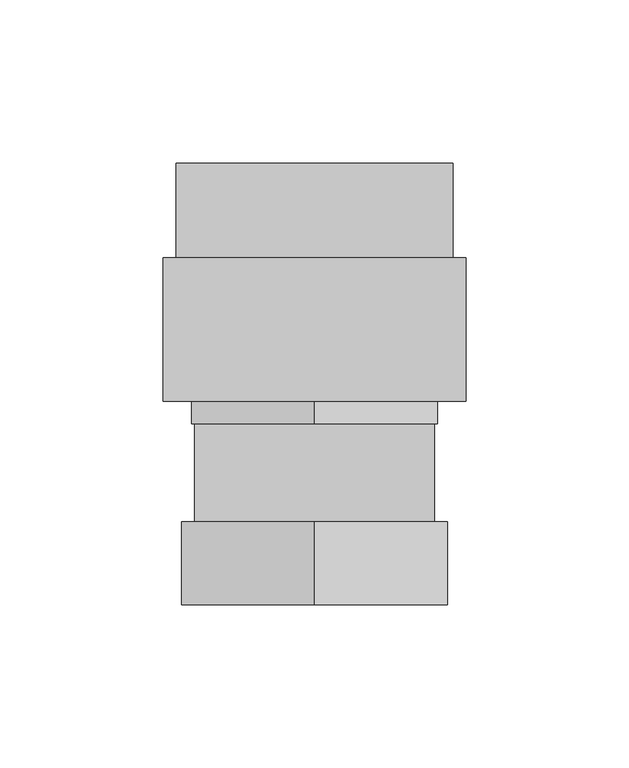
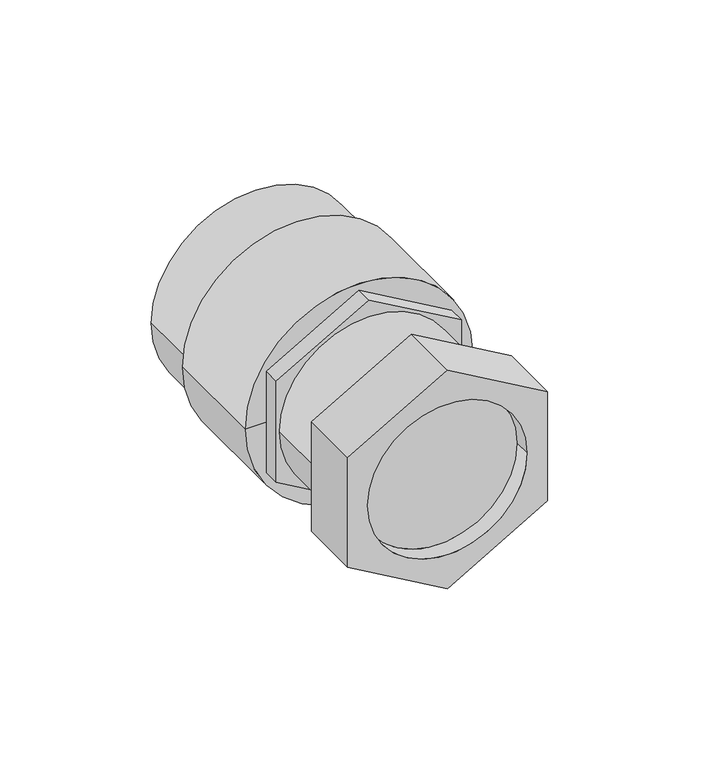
"""IFC4 building model written with IfcOpenShell, lengths in millimetres: pipe fitting geometry, NIRON RED termofusion roscado racor loco : Estándar."""

from ifc_helpers import new_model, si_unit, point, frame, origin, origin_2d, place, context, project, spatial, polyline, circle_curve, trimmed, segment, composite_curve, outline, extrude, source, transform, mapped, element, save
from ifc_brep_helpers import plane_surface, cylinder_surface, revolved_surface, advanced_brep


def pipe_fitting_96f5b82a(model_context):
    return source(origin(), model_context, "Body", "SolidModel", [
        advanced_brep(
        [(40.75, 9.0, -23.5270235), (40.75, 9.0, 23.5270235), (0.0, 9.0, 47.0540469), (-40.75, 9.0, 23.5270235), (-40.75, 9.0, -23.5270235), (0.0, 9.0, -47.0540469), (32.5, 9.0, 0.0), (-32.5, 9.0, 0.0), (40.75, 34.5, -23.5270235), (0.0, 34.5, -47.0540469), (-40.75, 34.5, -23.5270235), (-40.75, 34.5, 23.5270235), (0.0, 34.5, 47.0540469), (40.75, 34.5, 23.5270235), (-32.5, 16.0570795, 0.0), (32.5, 16.0570795, 0.0)],
        [
            (0, 1),
            (1, 2),
            (2, 3),
            (3, 4),
            (4, 5),
            (5, 0),
            (6, 7, circle_curve(frame((0.0, 9.0, 0.0), z_axis=(0.0, 1.0, 0.0), x_axis=(1.0, 0.0, 0.0)), 32.5)),
            (7, 6, circle_curve(frame((0.0, 9.0, 0.0), z_axis=(0.0, 1.0, 0.0), x_axis=(1.0, 0.0, 0.0)), 32.5)),
            (8, 9),
            (9, 10),
            (10, 11),
            (11, 12),
            (12, 13),
            (13, 8),
            (0, 8),
            (13, 1),
            (12, 2),
            (11, 3),
            (10, 4),
            (9, 5),
            (14, 15, circle_curve(frame((0.0, 16.0570795, 0.0), z_axis=(0.0, -1.0, 0.0), x_axis=(1.0, 0.0, 0.0)), 32.5)),
            (15, 14, circle_curve(frame((0.0, 16.0570795, 0.0), z_axis=(0.0, -1.0, 0.0), x_axis=(1.0, 0.0, 0.0)), 32.5)),
            (14, 7),
            (6, 15),
        ],
        [
            plane_surface(frame((0.0, 9.0, 0.0), z_axis=(0.0, -1.0, 0.0), x_axis=(0.0, 0.0, 1.0))),
            plane_surface(frame((0.0, 34.5, 0.0), z_axis=(0.0, 1.0, 0.0), x_axis=(0.0, 0.0, 1.0))),
            plane_surface(frame((40.75, 9.0, -23.5270235), z_axis=(1.0, 0.0, 0.0), x_axis=(0.0, 1.0, 0.0))),
            plane_surface(frame((40.75, 9.0, 23.5270235), z_axis=(0.49999999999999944, 0.0, 0.866025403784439), x_axis=(0.0, 1.0, 0.0))),
            plane_surface(frame((0.0, 9.0, 47.0540469), z_axis=(-0.49999999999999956, 0.0, 0.8660254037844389), x_axis=(0.0, 1.0, 0.0))),
            plane_surface(frame((-40.75, 9.0, 23.5270235), z_axis=(-1.0, 0.0, 0.0), x_axis=(0.0, 1.0, 0.0))),
            plane_surface(frame((-40.75, 9.0, -23.5270235), z_axis=(-0.4999999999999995, 0.0, -0.866025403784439), x_axis=(0.0, 1.0, 0.0))),
            plane_surface(frame((0.0, 9.0, -47.0540469), z_axis=(0.49999999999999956, 0.0, -0.8660254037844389), x_axis=(0.0, 1.0, 0.0))),
            plane_surface(frame((32.5, 16.0570795, 0.0), z_axis=(0.0, -1.0, 0.0), x_axis=(0.0, 0.0, -1.0))),
            revolved_surface(polyline([(32.5, 9.0, 0.0), (32.5, 16.0570795, 0.0)]), (0.0, 16.0570795, 0.0), (0.0, -1.0, 0.0)),
        ],
        [
            (0, [[1, 2, 3, 4, 5, 6], [7, 8]]),
            (1, [[9, 10, 11, 12, 13, 14]]),
            (2, [[-1, 15, -14, 16]]),
            (3, [[-2, -16, -13, 17]]),
            (4, [[-3, -17, -12, 18]]),
            (5, [[-4, -18, -11, 19]]),
            (6, [[-5, -19, -10, 20]]),
            (7, [[-6, -20, -9, -15]]),
            (8, [[21, 22]]),
            (9, [[-21, 23, -7, 24]]),
            (9, [[-22, -24, -8, -23]]),
        ],
    ),
        extrude(outline(polyline([(-21.7949727, 37.75), (21.7949727, 37.75), (43.5899453, 0.0), (21.7949727, -37.75), (-21.7949727, -37.75), (-43.5899453, 0.0), (-21.7949727, 37.75)])), frame((0.0, 64.5, 0.0), z_axis=(0.0, 1.0, 0.0), x_axis=(0.0, 0.0, 1.0)), (0.0, 0.0, 1.0), 7.0),
        extrude(outline(composite_curve([segment(trimmed(circle_curve(origin_2d(), 36.75), [point((0.0, -36.75))], [point((0.0, 36.75))], False, "CARTESIAN"), True, "CONTINUOUS"), segment(trimmed(circle_curve(origin_2d(), 36.75), [point((0.0, 36.75))], [point((0.0, -36.75))], False, "CARTESIAN"), True, "CONTINUOUS")], self_intersect=False)), frame((0.0, 34.5, 0.0), z_axis=(0.0, 1.0, 0.0), x_axis=(0.0, 0.0, 1.0)), (0.0, 0.0, 1.0), 30.0),
        advanced_brep(
        [(42.5, 144.5, 0.0), (-42.5, 144.5, 0.0), (0.0, 144.5, 0.0), (46.5, 71.5, 0.0), (-46.5, 71.5, 0.0), (-46.5, 115.5, 0.0), (46.5, 115.5, 0.0), (0.0, 71.5, 0.0), (42.5, 115.5, 0.0), (-42.5, 115.5, 0.0)],
        [
            (0, 1, circle_curve(frame((0.0, 144.5, 0.0), z_axis=(0.0, 1.0, 0.0), x_axis=(-1.0, 0.0, 0.0)), 42.5)),
            (1, 2),
            (2, 0),
            (1, 0, circle_curve(frame((0.0, 144.5, 0.0), z_axis=(0.0, 1.0, 0.0), x_axis=(-1.0, 0.0, 0.0)), 42.5)),
            (3, 4, circle_curve(frame((0.0, 71.5, 0.0), z_axis=(0.0, 1.0, 0.0), x_axis=(-1.0, 0.0, 0.0)), 46.5)),
            (4, 5),
            (5, 6, circle_curve(frame((0.0, 115.5, 0.0), z_axis=(0.0, -1.0, 0.0), x_axis=(-1.0, 0.0, 0.0)), 46.5)),
            (6, 3),
            (4, 3, circle_curve(frame((0.0, 71.5, 0.0), z_axis=(0.0, 1.0, 0.0), x_axis=(-1.0, 0.0, 0.0)), 46.5)),
            (6, 5, circle_curve(frame((0.0, 115.5, 0.0), z_axis=(0.0, -1.0, 0.0), x_axis=(-1.0, 0.0, 0.0)), 46.5)),
            (7, 4),
            (3, 7),
            (8, 9, circle_curve(frame((0.0, 115.5, 0.0), z_axis=(0.0, 1.0, 0.0), x_axis=(-1.0, 0.0, 0.0)), 42.5)),
            (9, 1),
            (0, 8),
            (9, 8, circle_curve(frame((0.0, 115.5, 0.0), z_axis=(0.0, 1.0, 0.0), x_axis=(-1.0, 0.0, 0.0)), 42.5)),
            (5, 9),
            (8, 6),
        ],
        [
            plane_surface(frame((0.0, 144.5, 0.0), z_axis=(0.0, 1.0, 0.0), x_axis=(-1.0, 0.0, 0.0))),
            cylinder_surface(frame((0.0, 154.5, 0.0), z_axis=(0.0, -1.0, 0.0), x_axis=(-1.0, 0.0, 0.0)), 46.5),
            plane_surface(frame((0.0, 71.5, 0.0), z_axis=(0.0, -1.0, 0.0), x_axis=(-1.0, 0.0, 0.0))),
            cylinder_surface(frame((0.0, 154.5, 0.0), z_axis=(0.0, -1.0, 0.0), x_axis=(-1.0, 0.0, 0.0)), 42.5),
            plane_surface(frame((0.0, 115.5, 0.0), z_axis=(0.0, 1.0, 0.0), x_axis=(-1.0, 0.0, 0.0))),
        ],
        [
            (0, [[1, 2, 3]]),
            (0, [[4, -3, -2]]),
            (1, [[5, 6, 7, 8]]),
            (1, [[9, -8, 10, -6]]),
            (2, [[11, -5, 12]]),
            (2, [[-12, -9, -11]]),
            (3, [[13, 14, -1, 15]]),
            (3, [[16, -15, -4, -14]]),
            (4, [[-7, 17, -13, 18]]),
            (4, [[-10, -18, -16, -17]]),
        ],
    ),
    ])


if __name__ == "__main__":
    model = new_model("IFC4")
    model_context = context("Model", 3, world=origin())
    ifc_project = project(units=[si_unit("LENGTHUNIT", "METRE", prefix="MILLI")], contexts=[model_context])
    site = spatial("IfcSite", under=ifc_project)
    building = spatial("IfcBuilding", under=site)
    placement = place(None, origin())
    pipe_fitting_shape = pipe_fitting_96f5b82a(model_context)
    element("IfcPipeFitting", 1, ObjectType="NIRON RED termofusion roscado racor loco : Estándar", at=placement, inside=building, context=model_context, shape_type="MappedRepresentation", body=[
        mapped(pipe_fitting_shape, transform((0.0, 0.0, 0.0), x_axis=(1.0, 0.0, 0.0), y_axis=(0.0, 1.0, 0.0), z_axis=(0.0, 0.0, 1.0))),
    ])
    save(model, "model.ifc")
